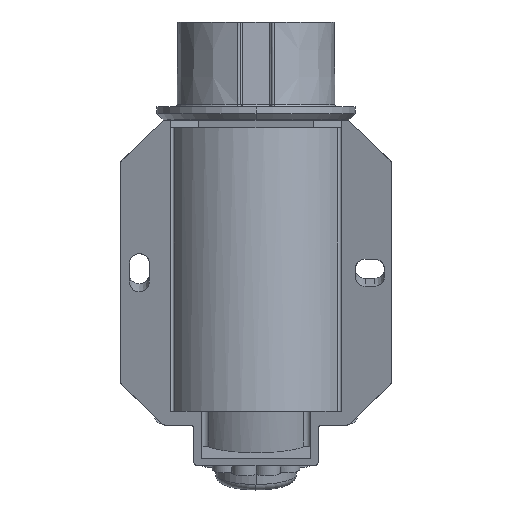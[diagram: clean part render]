
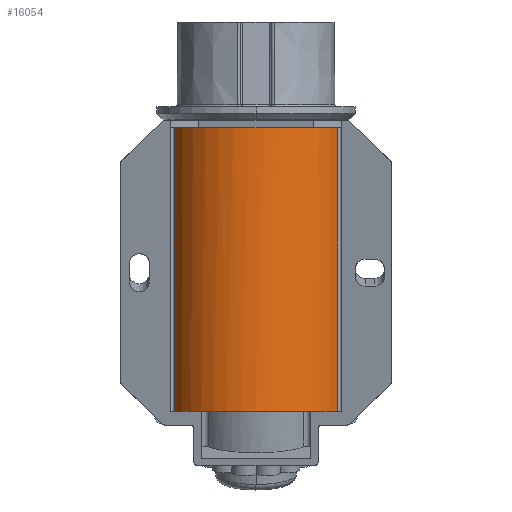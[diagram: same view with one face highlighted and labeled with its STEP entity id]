
A CAD part, front view. The second image highlights one B-rep face of the part: STEP entity #16054.
In plain terms, the highlighted cylindrical face has radius 24.7 mm (diameter 49.4 mm), a partial arc.
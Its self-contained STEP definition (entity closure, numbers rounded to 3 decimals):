
#2024=CARTESIAN_POINT('',(0.,0.,-2.));
#2025=DIRECTION('',(0.,0.,-1.));
#2026=DIRECTION('',(0.881,-0.473,0.));
#2027=AXIS2_PLACEMENT_3D('',#2024,#2025,#2026);
#2059=CARTESIAN_POINT('',(0.,0.,-77.35));
#2060=DIRECTION('',(0.,0.,-1.));
#2061=DIRECTION('',(0.881,-0.473,0.));
#2062=AXIS2_PLACEMENT_3D('',#2059,#2060,#2061);
#2158=CARTESIAN_POINT('',(0.,0.,-77.35));
#2159=DIRECTION('',(0.,0.,-1.));
#2160=DIRECTION('',(-0.587,-0.81,0.));
#2161=AXIS2_PLACEMENT_3D('',#2158,#2159,#2160);
#2167=DIRECTION('',(0.,0.,-1.));
#2168=VECTOR('',#2167,75.35);
#2169=CARTESIAN_POINT('',(-21.76,-11.688,-2.));
#2170=LINE('781',#2169,#2168);
#2171=DIRECTION('',(0.,0.,1.));
#2172=VECTOR('',#2171,75.35);
#2173=CARTESIAN_POINT('',(21.76,-11.688,-77.35));
#2174=LINE('785',#2173,#2172);
#2175=CARTESIAN_POINT('',(0.,0.,-77.35));
#2176=DIRECTION('',(0.,0.,-1.));
#2177=DIRECTION('',(0.587,-0.81,0.));
#2178=AXIS2_PLACEMENT_3D('',#2175,#2176,#2177);
#10544=CARTESIAN_POINT('',(14.5,-19.996,-77.35));
#10545=VERTEX_POINT('',#10544);
#10546=CARTESIAN_POINT('',(-14.5,-19.996,-77.35));
#10547=VERTEX_POINT('',#10546);
#10552=CARTESIAN_POINT('',(-21.76,-11.688,-77.35));
#10554=VERTEX_POINT('',#10552);
#10558=CARTESIAN_POINT('',(-21.76,-11.688,-2.));
#10559=VERTEX_POINT('',#10558);
#10560=CARTESIAN_POINT('',(21.76,-11.688,-2.));
#10562=VERTEX_POINT('',#10560);
#10566=CARTESIAN_POINT('',(21.76,-11.688,-77.35));
#10567=VERTEX_POINT('',#10566);
#16041=CARTESIAN_POINT('',(0.,0.,1.768));
#16042=DIRECTION('',(0.,0.,-1.));
#16043=DIRECTION('',(-1.,0.,0.));
#16044=AXIS2_PLACEMENT_3D('',#16041,#16042,#16043);
#16045=CYLINDRICAL_SURFACE('65',#16044,24.7);
#16046=ORIENTED_EDGE('781',*,*,#16024,.F.);
#16047=ORIENTED_EDGE('786',*,*,#15728,.F.);
#16048=ORIENTED_EDGE('785',*,*,#15760,.F.);
#16049=ORIENTED_EDGE('789',*,*,#15787,.T.);
#16050=ORIENTED_EDGE('775',*,*,#15868,.T.);
#16051=ORIENTED_EDGE('790',*,*,#16001,.T.);
#16052=EDGE_LOOP('65',(#16046,#16047,#16048,#16049,#16050,#16051));
#16053=FACE_OUTER_BOUND('65',#16052,.F.);
#2028=CIRCLE('786',#2027,24.7);
#2063=CIRCLE('789',#2062,24.7);
#2162=CIRCLE('790',#2161,24.7);
#2179=CIRCLE('775',#2178,24.7);
#15728=EDGE_CURVE('786',#10562,#10559,#2028,.T.);
#15760=EDGE_CURVE('785',#10567,#10562,#2174,.T.);
#15787=EDGE_CURVE('789',#10567,#10545,#2063,.T.);
#15868=EDGE_CURVE('775',#10545,#10547,#2179,.T.);
#16001=EDGE_CURVE('790',#10547,#10554,#2162,.T.);
#16024=EDGE_CURVE('781',#10559,#10554,#2170,.T.);
#16054=ADVANCED_FACE('65',(#16053),#16045,.T.);
